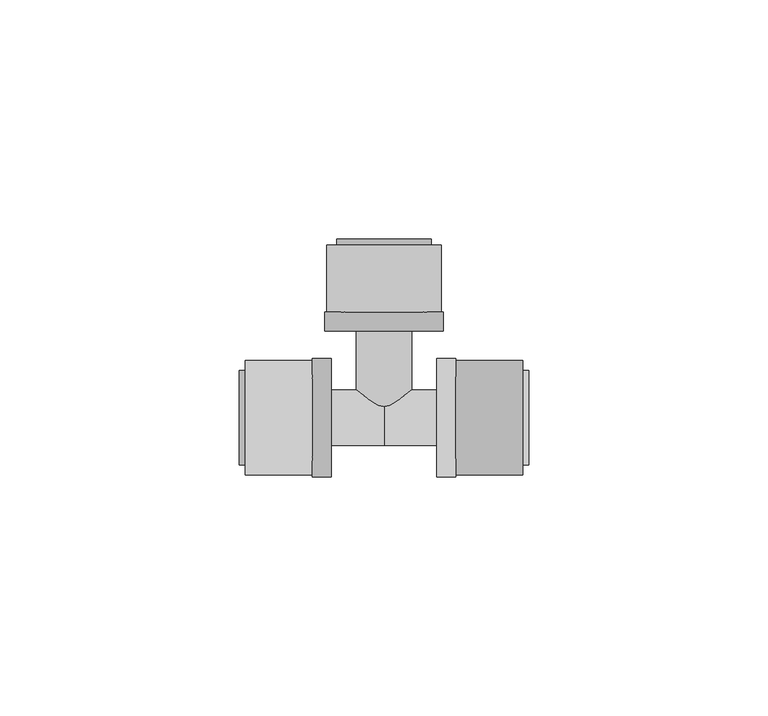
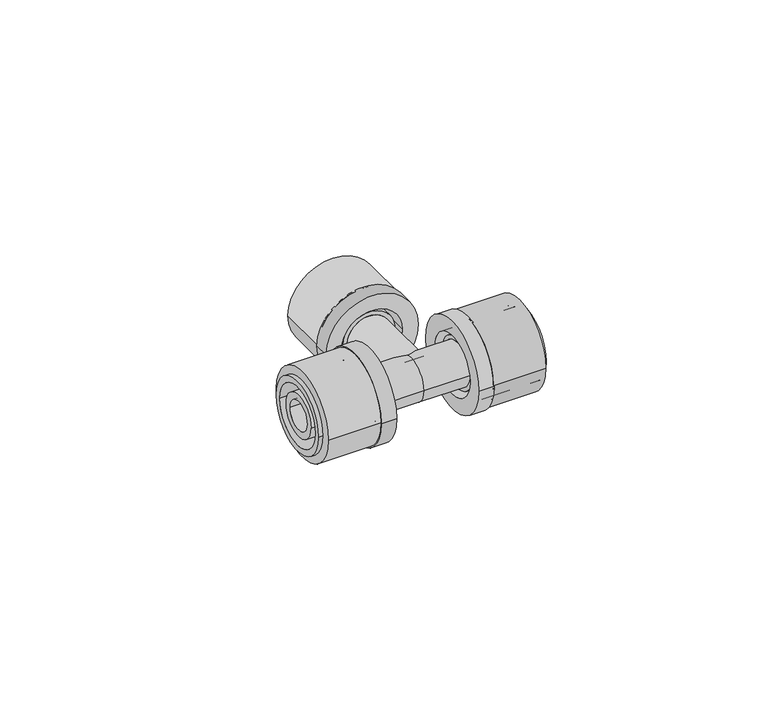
"""IFC4 building model written with IfcOpenShell, lengths in millimetres: pipe fitting geometry, FASTLOC_T-piece_LX : FSL T-Piece LX CZ."""

from ifc_helpers import new_model, si_unit, point, frame, origin, origin_2d, place, context, project, spatial, polyline, circle_curve, trimmed, segment, composite_curve, outline, extrude, source, transform, mapped, element, save
from ifc_brep_helpers import plane_surface, cylinder_surface, revolved_surface, advanced_brep


def pipe_fitting_d1609a9c(model_context):
    return source(origin(), model_context, "Body", "SolidModel", [
        extrude(outline(composite_curve([segment(trimmed(circle_curve(origin_2d(), 12.0), [point((-12.0, 0.0))], [point((12.0, 0.0))], False, "CARTESIAN"), True, "CONTINUOUS"), segment(trimmed(circle_curve(origin_2d(), 12.0), [point((12.0, 0.0))], [point((-12.0, 0.0))], False, "CARTESIAN"), True, "CONTINUOUS")], self_intersect=False), holes=[composite_curve([segment(trimmed(circle_curve(origin_2d(), 8.85), [point((-8.85, 0.0))], [point((8.85, 0.0))], True, "CARTESIAN"), True, "CONTINUOUS"), segment(trimmed(circle_curve(origin_2d(), 8.85), [point((8.85, 0.0))], [point((-8.85, 0.0))], True, "CARTESIAN"), True, "CONTINUOUS")], self_intersect=False)]), frame((15.0, 0.0, 0.0), z_axis=(1.0, 0.0, 0.0), x_axis=(0.0, 1.0, 0.0)), (0.0, 0.0, 1.0), 14.0),
        advanced_brep(
        [(15.0, 12.35, 0.0), (15.0, -12.35, 0.0), (11.0, -12.35, 0.0), (11.0, 12.35, 0.0), (30.3, 9.85, 0.0), (30.3, -9.85, 0.0), (15.0, -9.85, 0.0), (15.0, 9.85, 0.0), (11.0, 8.15, 0.0), (11.0, -8.15, 0.0), (30.3, -8.15, 0.0), (30.3, 8.15, 0.0)],
        [
            (0, 1, circle_curve(frame((15.0, 0.0, 0.0), z_axis=(-1.0, 0.0, 0.0), x_axis=(0.0, -1.0, 0.0)), 12.35)),
            (1, 2),
            (2, 3, circle_curve(frame((11.0, 0.0, 0.0), z_axis=(1.0, 0.0, 0.0), x_axis=(0.0, -1.0, 0.0)), 12.35)),
            (3, 0),
            (4, 5, circle_curve(frame((30.3, 0.0, 0.0), z_axis=(-1.0, 0.0, 0.0), x_axis=(0.0, -1.0, 0.0)), 9.85)),
            (5, 6),
            (6, 7, circle_curve(frame((15.0, 0.0, 0.0), z_axis=(1.0, 0.0, 0.0), x_axis=(0.0, -1.0, 0.0)), 9.85)),
            (7, 4),
            (8, 9, circle_curve(frame((11.0, 0.0, 0.0), z_axis=(-1.0, 0.0, 0.0), x_axis=(0.0, -1.0, 0.0)), 8.15)),
            (9, 10),
            (10, 11, circle_curve(frame((30.3, 0.0, 0.0), z_axis=(1.0, 0.0, 0.0), x_axis=(0.0, -1.0, 0.0)), 8.15)),
            (11, 8),
            (1, 0, circle_curve(frame((15.0, 0.0, 0.0), z_axis=(-1.0, 0.0, 0.0), x_axis=(0.0, 1.0, 0.0)), 12.35)),
            (3, 2, circle_curve(frame((11.0, 0.0, 0.0), z_axis=(1.0, 0.0, 0.0), x_axis=(0.0, 1.0, 0.0)), 12.35)),
            (6, 7, circle_curve(frame((15.0, 0.0, 0.0), z_axis=(-1.0, 0.0, 0.0), x_axis=(0.0, 1.0, 0.0)), 9.85)),
            (5, 4, circle_curve(frame((30.3, 0.0, 0.0), z_axis=(-1.0, 0.0, 0.0), x_axis=(0.0, 1.0, 0.0)), 9.85)),
            (10, 11, circle_curve(frame((30.3, 0.0, 0.0), z_axis=(-1.0, 0.0, 0.0), x_axis=(0.0, 1.0, 0.0)), 8.15)),
            (9, 8, circle_curve(frame((11.0, 0.0, 0.0), z_axis=(-1.0, 0.0, 0.0), x_axis=(0.0, 1.0, 0.0)), 8.15)),
        ],
        [
            cylinder_surface(frame((11.0, 0.0, 0.0), z_axis=(1.0, 0.0, 0.0), x_axis=(0.0, -1.0, 0.0)), 12.35),
            cylinder_surface(frame((11.0, 0.0, 0.0), z_axis=(1.0, 0.0, 0.0), x_axis=(0.0, -1.0, 0.0)), 9.85),
            revolved_surface(polyline([(30.3, -8.15, 0.0), (11.0, -8.15, 0.0)]), (11.0, 0.0, 0.0), (1.0, 0.0, 0.0)),
            cylinder_surface(frame((11.0, 0.0, 0.0), z_axis=(1.0, 0.0, 0.0), x_axis=(0.0, 1.0, 0.0)), 12.35),
            plane_surface(frame((15.0, 0.0, 0.0), z_axis=(1.0, 0.0, 0.0), x_axis=(0.0, 1.0, 0.0))),
            cylinder_surface(frame((11.0, 0.0, 0.0), z_axis=(1.0, 0.0, 0.0), x_axis=(0.0, 1.0, 0.0)), 9.85),
            plane_surface(frame((30.3, 0.0, 0.0), z_axis=(1.0, 0.0, 0.0), x_axis=(0.0, 1.0, 0.0))),
            revolved_surface(polyline([(30.3, 8.15, 0.0), (11.0, 8.15, 0.0)]), (11.0, 0.0, 0.0), (1.0, 0.0, 0.0)),
            plane_surface(frame((11.0, 0.0, 0.0), z_axis=(-1.0, 0.0, 0.0), x_axis=(0.0, 1.0, 0.0))),
        ],
        [
            (0, [[1, 2, 3, 4]]),
            (1, [[5, 6, 7, 8]]),
            (2, [[9, 10, 11, 12]]),
            (3, [[13, -4, 14, -2]]),
            (4, [[-13, -1], [15, -7]]),
            (5, [[16, -8, -15, -6]]),
            (6, [[-16, -5], [17, -11]]),
            (7, [[18, -12, -17, -10]]),
            (8, [[-14, -3], [-18, -9]]),
        ],
    ),
        extrude(outline(composite_curve([segment(trimmed(circle_curve(origin_2d(), 12.0), [point((12.0, 0.0))], [point((-12.0, 0.0))], False, "CARTESIAN"), True, "CONTINUOUS"), segment(trimmed(circle_curve(origin_2d(), 12.0), [point((-12.0, 0.0))], [point((12.0, 0.0))], False, "CARTESIAN"), True, "CONTINUOUS")], self_intersect=False), holes=[composite_curve([segment(trimmed(circle_curve(origin_2d(), 8.85), [point((8.85, 0.0))], [point((-8.85, 0.0))], True, "CARTESIAN"), True, "CONTINUOUS"), segment(trimmed(circle_curve(origin_2d(), 8.85), [point((-8.85, 0.0))], [point((8.85, 0.0))], True, "CARTESIAN"), True, "CONTINUOUS")], self_intersect=False)]), frame((-29.0, 0.0, 0.0), z_axis=(1.0, 0.0, 0.0), x_axis=(0.0, 1.0, 0.0)), (0.0, 0.0, 1.0), 14.0),
        advanced_brep(
        [(-15.0, -12.35, 0.0), (-15.0, 12.35, 0.0), (-11.0, 12.35, 0.0), (-11.0, -12.35, 0.0), (-30.3, -9.85, 0.0), (-30.3, 9.85, 0.0), (-15.0, 9.85, 0.0), (-15.0, -9.85, 0.0), (-11.0, -8.15, 0.0), (-11.0, 8.15, 0.0), (-30.3, 8.15, 0.0), (-30.3, -8.15, 0.0)],
        [
            (0, 1, circle_curve(frame((-15.0, 0.0, 0.0), z_axis=(1.0, 0.0, 0.0), x_axis=(0.0, 1.0, 0.0)), 12.35)),
            (1, 2),
            (2, 3, circle_curve(frame((-11.0, 0.0, 0.0), z_axis=(-1.0, 0.0, 0.0), x_axis=(0.0, 1.0, 0.0)), 12.35)),
            (3, 0),
            (4, 5, circle_curve(frame((-30.3, 0.0, 0.0), z_axis=(1.0, 0.0, 0.0), x_axis=(0.0, 1.0, 0.0)), 9.85)),
            (5, 6),
            (6, 7, circle_curve(frame((-15.0, 0.0, 0.0), z_axis=(-1.0, 0.0, 0.0), x_axis=(0.0, 1.0, 0.0)), 9.85)),
            (7, 4),
            (8, 9, circle_curve(frame((-11.0, 0.0, 0.0), z_axis=(1.0, 0.0, 0.0), x_axis=(0.0, 1.0, 0.0)), 8.15)),
            (9, 10),
            (10, 11, circle_curve(frame((-30.3, 0.0, 0.0), z_axis=(-1.0, 0.0, 0.0), x_axis=(0.0, 1.0, 0.0)), 8.15)),
            (11, 8),
            (1, 0, circle_curve(frame((-15.0, 0.0, 0.0), z_axis=(1.0, 0.0, 0.0), x_axis=(0.0, -1.0, 0.0)), 12.35)),
            (3, 2, circle_curve(frame((-11.0, 0.0, 0.0), z_axis=(-1.0, 0.0, 0.0), x_axis=(0.0, -1.0, 0.0)), 12.35)),
            (6, 7, circle_curve(frame((-15.0, 0.0, 0.0), z_axis=(1.0, 0.0, 0.0), x_axis=(0.0, -1.0, 0.0)), 9.85)),
            (5, 4, circle_curve(frame((-30.3, 0.0, 0.0), z_axis=(1.0, 0.0, 0.0), x_axis=(0.0, -1.0, 0.0)), 9.85)),
            (10, 11, circle_curve(frame((-30.3, 0.0, 0.0), z_axis=(1.0, 0.0, 0.0), x_axis=(0.0, -1.0, 0.0)), 8.15)),
            (9, 8, circle_curve(frame((-11.0, 0.0, 0.0), z_axis=(1.0, 0.0, 0.0), x_axis=(0.0, -1.0, 0.0)), 8.15)),
        ],
        [
            cylinder_surface(frame((-11.0, 0.0, 0.0), z_axis=(-1.0, 0.0, 0.0), x_axis=(0.0, 1.0, 0.0)), 12.35),
            cylinder_surface(frame((-11.0, 0.0, 0.0), z_axis=(-1.0, 0.0, 0.0), x_axis=(0.0, 1.0, 0.0)), 9.85),
            revolved_surface(polyline([(-30.3, 8.15, 0.0), (-11.0, 8.15, 0.0)]), (-11.0, 0.0, 0.0), (-1.0, 0.0, 0.0)),
            cylinder_surface(frame((-11.0, 0.0, 0.0), z_axis=(-1.0, 0.0, 0.0), x_axis=(0.0, -1.0, 0.0)), 12.35),
            plane_surface(frame((-15.0, 0.0, 0.0), z_axis=(-1.0, 0.0, 0.0), x_axis=(0.0, -1.0, 0.0))),
            cylinder_surface(frame((-11.0, 0.0, 0.0), z_axis=(-1.0, 0.0, 0.0), x_axis=(0.0, -1.0, 0.0)), 9.85),
            plane_surface(frame((-30.3, 0.0, 0.0), z_axis=(-1.0, 0.0, 0.0), x_axis=(0.0, -1.0, 0.0))),
            revolved_surface(polyline([(-30.3, -8.15, 0.0), (-11.0, -8.15, 0.0)]), (-11.0, 0.0, 0.0), (-1.0, 0.0, 0.0)),
            plane_surface(frame((-11.0, 0.0, 0.0), z_axis=(1.0, 0.0, 0.0), x_axis=(0.0, -1.0, 0.0))),
        ],
        [
            (0, [[1, 2, 3, 4]]),
            (1, [[5, 6, 7, 8]]),
            (2, [[9, 10, 11, 12]]),
            (3, [[13, -4, 14, -2]]),
            (4, [[-13, -1], [15, -7]]),
            (5, [[16, -8, -15, -6]]),
            (6, [[-16, -5], [17, -11]]),
            (7, [[18, -12, -17, -10]]),
            (8, [[-14, -3], [-18, -9]]),
        ],
    ),
        extrude(outline(composite_curve([segment(trimmed(circle_curve(origin_2d(), 12.0), [point((0.0, 12.0))], [point((0.0, -12.0))], False, "CARTESIAN"), True, "CONTINUOUS"), segment(trimmed(circle_curve(origin_2d(), 12.0), [point((0.0, -12.0))], [point((0.0, 12.0))], False, "CARTESIAN"), True, "CONTINUOUS")], self_intersect=False), holes=[composite_curve([segment(trimmed(circle_curve(origin_2d(), 8.85), [point((0.0, 8.85))], [point((0.0, -8.85))], True, "CARTESIAN"), True, "CONTINUOUS"), segment(trimmed(circle_curve(origin_2d(), 8.85), [point((0.0, -8.85))], [point((0.0, 8.85))], True, "CARTESIAN"), True, "CONTINUOUS")], self_intersect=False)]), frame((0.0, 22.1, 0.0), z_axis=(0.0, 1.0, 0.0), x_axis=(0.0, 0.0, 1.0)), (0.0, 0.0, 1.0), 14.0),
        advanced_brep(
        [(-12.35, 22.1, 0.0), (12.35, 22.1, 0.0), (12.35, 18.1, 0.0), (-12.35, 18.1, 0.0), (-9.85, 37.4, 0.0), (9.85, 37.4, 0.0), (9.85, 22.1, 0.0), (-9.85, 22.1, 0.0), (-8.15, 18.1, 0.0), (8.15, 18.1, 0.0), (8.15, 37.4, 0.0), (-8.15, 37.4, 0.0)],
        [
            (0, 1, circle_curve(frame((0.0, 22.1, 0.0), z_axis=(0.0, -1.0, 0.0), x_axis=(1.0, 0.0, 0.0)), 12.35)),
            (1, 2),
            (2, 3, circle_curve(frame((0.0, 18.1, 0.0), z_axis=(0.0, 1.0, 0.0), x_axis=(1.0, 0.0, 0.0)), 12.35)),
            (3, 0),
            (4, 5, circle_curve(frame((0.0, 37.4, 0.0), z_axis=(0.0, -1.0, 0.0), x_axis=(1.0, 0.0, 0.0)), 9.85)),
            (5, 6),
            (6, 7, circle_curve(frame((0.0, 22.1, 0.0), z_axis=(0.0, 1.0, 0.0), x_axis=(1.0, 0.0, 0.0)), 9.85)),
            (7, 4),
            (8, 9, circle_curve(frame((0.0, 18.1, 0.0), z_axis=(0.0, -1.0, 0.0), x_axis=(1.0, 0.0, 0.0)), 8.15)),
            (9, 10),
            (10, 11, circle_curve(frame((0.0, 37.4, 0.0), z_axis=(0.0, 1.0, 0.0), x_axis=(1.0, 0.0, 0.0)), 8.15)),
            (11, 8),
            (1, 0, circle_curve(frame((0.0, 22.1, 0.0), z_axis=(0.0, -1.0, 0.0), x_axis=(-1.0, 0.0, 0.0)), 12.35)),
            (3, 2, circle_curve(frame((0.0, 18.1, 0.0), z_axis=(0.0, 1.0, 0.0), x_axis=(-1.0, 0.0, 0.0)), 12.35)),
            (6, 7, circle_curve(frame((0.0, 22.1, 0.0), z_axis=(0.0, -1.0, 0.0), x_axis=(-1.0, 0.0, 0.0)), 9.85)),
            (5, 4, circle_curve(frame((0.0, 37.4, 0.0), z_axis=(0.0, -1.0, 0.0), x_axis=(-1.0, 0.0, 0.0)), 9.85)),
            (10, 11, circle_curve(frame((0.0, 37.4, 0.0), z_axis=(0.0, -1.0, 0.0), x_axis=(-1.0, 0.0, 0.0)), 8.15)),
            (9, 8, circle_curve(frame((0.0, 18.1, 0.0), z_axis=(0.0, -1.0, 0.0), x_axis=(-1.0, 0.0, 0.0)), 8.15)),
        ],
        [
            cylinder_surface(frame((0.0, 18.1, 0.0), z_axis=(0.0, 1.0, 0.0), x_axis=(1.0, 0.0, 0.0)), 12.35),
            cylinder_surface(frame((0.0, 18.1, 0.0), z_axis=(0.0, 1.0, 0.0), x_axis=(1.0, 0.0, 0.0)), 9.85),
            revolved_surface(polyline([(8.15, 37.4, 0.0), (8.15, 18.1, 0.0)]), (0.0, 18.1, 0.0), (0.0, 1.0, 0.0)),
            cylinder_surface(frame((0.0, 18.1, 0.0), z_axis=(0.0, 1.0, 0.0), x_axis=(-1.0, 0.0, 0.0)), 12.35),
            plane_surface(frame((0.0, 22.1, 0.0), z_axis=(0.0, 1.0, 0.0), x_axis=(-1.0, 0.0, 0.0))),
            cylinder_surface(frame((0.0, 18.1, 0.0), z_axis=(0.0, 1.0, 0.0), x_axis=(-1.0, 0.0, 0.0)), 9.85),
            plane_surface(frame((0.0, 37.4, 0.0), z_axis=(0.0, 1.0, 0.0), x_axis=(-1.0, 0.0, 0.0))),
            revolved_surface(polyline([(-8.15, 37.4, 0.0), (-8.15, 18.1, 0.0)]), (0.0, 18.1, 0.0), (0.0, 1.0, 0.0)),
            plane_surface(frame((0.0, 18.1, 0.0), z_axis=(0.0, -1.0, 0.0), x_axis=(-1.0, 0.0, 0.0))),
        ],
        [
            (0, [[1, 2, 3, 4]]),
            (1, [[5, 6, 7, 8]]),
            (2, [[9, 10, 11, 12]]),
            (3, [[13, -4, 14, -2]]),
            (4, [[-13, -1], [15, -7]]),
            (5, [[16, -8, -15, -6]]),
            (6, [[-16, -5], [17, -11]]),
            (7, [[18, -12, -17, -10]]),
            (8, [[-14, -3], [-18, -9]]),
        ],
    ),
        advanced_brep(
        [(0.0, 5.8, 0.0), (0.0, -5.8, 0.0), (-12.29, -5.8, 0.0), (-12.29, 5.8, 0.0), (12.29, 5.8, 0.0), (12.29, -5.8, 0.0), (15.0, 6.9, 0.0), (15.0, -6.9, 0.0), (12.29, -6.9, 0.0), (12.29, 6.9, 0.0), (30.0, 5.8, 0.0), (30.0, -5.8, 0.0), (15.0, -5.8, 0.0), (15.0, 5.8, 0.0), (-15.0, 5.8, 0.0), (-15.0, -5.8, 0.0), (-30.0, -5.8, 0.0), (-30.0, 5.8, 0.0), (-12.29, 6.9, 0.0), (-12.29, -6.9, 0.0), (-15.0, -6.9, 0.0), (-15.0, 6.9, 0.0), (30.0, -3.95, 0.0), (30.0, 3.95, 0.0), (-30.0, 3.95, 0.0), (-30.0, -3.95, 0.0), (0.0, 3.95, 0.0), (0.0, -3.95, 0.0)],
        [
            (0, 1, circle_curve(frame((0.0, 0.0, 0.0), z_axis=(-1.0, 0.0, 0.0), x_axis=(0.0, -1.0, 0.0)), 5.8)),
            (1, 2),
            (2, 3, circle_curve(frame((-12.29, 0.0, 0.0), z_axis=(1.0, 0.0, 0.0), x_axis=(0.0, -1.0, 0.0)), 5.8)),
            (3, 0),
            (4, 5, circle_curve(frame((12.29, 0.0, 0.0), z_axis=(-1.0, 0.0, 0.0), x_axis=(0.0, -1.0, 0.0)), 5.8)),
            (5, 1),
            (0, 4),
            (6, 7, circle_curve(frame((15.0, 0.0, 0.0), z_axis=(-1.0, 0.0, 0.0), x_axis=(0.0, -1.0, 0.0)), 6.9)),
            (7, 8),
            (8, 9, circle_curve(frame((12.29, 0.0, 0.0), z_axis=(1.0, 0.0, 0.0), x_axis=(0.0, -1.0, 0.0)), 6.9)),
            (9, 6),
            (10, 11, circle_curve(frame((30.0, 0.0, 0.0), z_axis=(-1.0, 0.0, 0.0), x_axis=(0.0, -1.0, 0.0)), 5.8)),
            (11, 12),
            (12, 13, circle_curve(frame((15.0, 0.0, 0.0), z_axis=(1.0, 0.0, 0.0), x_axis=(0.0, -1.0, 0.0)), 5.8)),
            (13, 10),
            (14, 15, circle_curve(frame((-15.0, 0.0, 0.0), z_axis=(-1.0, 0.0, 0.0), x_axis=(0.0, -1.0, 0.0)), 5.8)),
            (15, 16),
            (16, 17, circle_curve(frame((-30.0, 0.0, 0.0), z_axis=(1.0, 0.0, 0.0), x_axis=(0.0, -1.0, 0.0)), 5.8)),
            (17, 14),
            (18, 19, circle_curve(frame((-12.29, 0.0, 0.0), z_axis=(-1.0, 0.0, 0.0), x_axis=(0.0, -1.0, 0.0)), 6.9)),
            (19, 20),
            (20, 21, circle_curve(frame((-15.0, 0.0, 0.0), z_axis=(1.0, 0.0, 0.0), x_axis=(0.0, -1.0, 0.0)), 6.9)),
            (21, 18),
            (18, 19, circle_curve(frame((-12.29, 0.0, 0.0), z_axis=(1.0, 0.0, 0.0), x_axis=(0.0, 1.0, 0.0)), 6.9)),
            (2, 3, circle_curve(frame((-12.29, 0.0, 0.0), z_axis=(-1.0, 0.0, 0.0), x_axis=(0.0, 1.0, 0.0)), 5.8)),
            (1, 0, circle_curve(frame((0.0, 0.0, 0.0), z_axis=(-1.0, 0.0, 0.0), x_axis=(0.0, 1.0, 0.0)), 5.8)),
            (5, 4, circle_curve(frame((12.29, 0.0, 0.0), z_axis=(-1.0, 0.0, 0.0), x_axis=(0.0, 1.0, 0.0)), 5.8)),
            (8, 9, circle_curve(frame((12.29, 0.0, 0.0), z_axis=(-1.0, 0.0, 0.0), x_axis=(0.0, 1.0, 0.0)), 6.9)),
            (7, 6, circle_curve(frame((15.0, 0.0, 0.0), z_axis=(-1.0, 0.0, 0.0), x_axis=(0.0, 1.0, 0.0)), 6.9)),
            (12, 13, circle_curve(frame((15.0, 0.0, 0.0), z_axis=(-1.0, 0.0, 0.0), x_axis=(0.0, 1.0, 0.0)), 5.8)),
            (11, 10, circle_curve(frame((30.0, 0.0, 0.0), z_axis=(-1.0, 0.0, 0.0), x_axis=(0.0, 1.0, 0.0)), 5.8)),
            (22, 23, circle_curve(frame((30.0, 0.0, 0.0), z_axis=(-1.0, 0.0, 0.0), x_axis=(0.0, 1.0, 0.0)), 3.95)),
            (23, 22, circle_curve(frame((30.0, 0.0, 0.0), z_axis=(-1.0, 0.0, 0.0), x_axis=(0.0, -1.0, 0.0)), 3.95)),
            (16, 17, circle_curve(frame((-30.0, 0.0, 0.0), z_axis=(-1.0, 0.0, 0.0), x_axis=(0.0, 1.0, 0.0)), 5.8)),
            (24, 25, circle_curve(frame((-30.0, 0.0, 0.0), z_axis=(1.0, 0.0, 0.0), x_axis=(0.0, 1.0, 0.0)), 3.95)),
            (25, 24, circle_curve(frame((-30.0, 0.0, 0.0), z_axis=(1.0, 0.0, 0.0), x_axis=(0.0, -1.0, 0.0)), 3.95)),
            (15, 14, circle_curve(frame((-15.0, 0.0, 0.0), z_axis=(-1.0, 0.0, 0.0), x_axis=(0.0, 1.0, 0.0)), 5.8)),
            (20, 21, circle_curve(frame((-15.0, 0.0, 0.0), z_axis=(-1.0, 0.0, 0.0), x_axis=(0.0, 1.0, 0.0)), 6.9)),
            (26, 27, circle_curve(frame((0.0, 0.0, 0.0), z_axis=(-1.0, 0.0, 0.0), x_axis=(0.0, -1.0, 0.0)), 3.95)),
            (27, 22),
            (23, 26),
            (25, 27),
            (26, 24),
            (27, 26, circle_curve(frame((0.0, 0.0, 0.0), z_axis=(-1.0, 0.0, 0.0), x_axis=(0.0, 1.0, 0.0)), 3.95)),
        ],
        [
            cylinder_surface(frame((0.0, 0.0, 0.0), z_axis=(1.0, 0.0, 0.0), x_axis=(0.0, -1.0, 0.0)), 5.8),
            cylinder_surface(frame((0.0, 0.0, 0.0), z_axis=(1.0, 0.0, 0.0), x_axis=(0.0, -1.0, 0.0)), 6.9),
            plane_surface(frame((-12.29, 0.0, 0.0), z_axis=(1.0, 0.0, 0.0), x_axis=(0.0, 1.0, 0.0))),
            cylinder_surface(frame((0.0, 0.0, 0.0), z_axis=(1.0, 0.0, 0.0), x_axis=(0.0, 1.0, 0.0)), 5.8),
            plane_surface(frame((12.29, 0.0, 0.0), z_axis=(-1.0, 0.0, 0.0), x_axis=(0.0, 1.0, 0.0))),
            cylinder_surface(frame((0.0, 0.0, 0.0), z_axis=(1.0, 0.0, 0.0), x_axis=(0.0, 1.0, 0.0)), 6.9),
            plane_surface(frame((15.0, 0.0, 0.0), z_axis=(1.0, 0.0, 0.0), x_axis=(0.0, 1.0, 0.0))),
            plane_surface(frame((30.0, 0.0, 0.0), z_axis=(1.0, 0.0, 0.0), x_axis=(0.0, 1.0, 0.0))),
            plane_surface(frame((-30.0, 0.0, 0.0), z_axis=(-1.0, 0.0, 0.0), x_axis=(0.0, 1.0, 0.0))),
            plane_surface(frame((-15.0, 0.0, 0.0), z_axis=(-1.0, 0.0, 0.0), x_axis=(0.0, 1.0, 0.0))),
            revolved_surface(polyline([(30.0, -3.95, 0.0), (0.0, -3.95, 0.0)]), (0.0, 0.0, 0.0), (1.0, 0.0, 0.0)),
            revolved_surface(polyline([(0.0, -3.95, 0.0), (-30.0, -3.95, 0.0)]), (0.0, 0.0, 0.0), (1.0, 0.0, 0.0)),
            revolved_surface(polyline([(30.0, 3.95, 0.0), (0.0, 3.95, 0.0)]), (0.0, 0.0, 0.0), (1.0, 0.0, 0.0)),
            revolved_surface(polyline([(0.0, 3.95, 0.0), (-30.0, 3.95, 0.0)]), (0.0, 0.0, 0.0), (1.0, 0.0, 0.0)),
        ],
        [
            (0, [[1, 2, 3, 4]]),
            (0, [[5, 6, -1, 7]]),
            (1, [[8, 9, 10, 11]]),
            (0, [[12, 13, 14, 15]]),
            (0, [[16, 17, 18, 19]]),
            (1, [[20, 21, 22, 23]]),
            (2, [[24, -20], [25, -3]]),
            (3, [[26, -4, -25, -2]]),
            (3, [[27, -7, -26, -6]]),
            (4, [[28, -10], [-27, -5]]),
            (5, [[29, -11, -28, -9]]),
            (6, [[-29, -8], [30, -14]]),
            (3, [[31, -15, -30, -13]]),
            (7, [[-31, -12], [32, 33]]),
            (8, [[34, -18], [35, 36]]),
            (3, [[37, -19, -34, -17]]),
            (9, [[38, -22], [-37, -16]]),
            (5, [[-24, -23, -38, -21]]),
            (10, [[39, 40, -33, 41]]),
            (11, [[-36, 42, -39, 43]]),
            (12, [[44, -41, -32, -40]]),
            (13, [[-35, -43, -44, -42]]),
        ],
    ),
        advanced_brep(
        [(3.95, 37.1, 0.0), (-3.95, 37.1, 0.0), (-3.95, 0.0, 0.0), (3.95, 0.0, 0.0), (5.8, 0.0, 0.0), (-5.8, 0.0, 0.0), (-5.8, 19.39, 0.0), (5.8, 19.39, 0.0), (6.9, 19.39, 0.0), (-6.9, 19.39, 0.0), (-6.9, 22.1, 0.0), (6.9, 22.1, 0.0), (5.8, 22.1, 0.0), (-5.8, 22.1, 0.0), (-5.8, 37.1, 0.0), (5.8, 37.1, 0.0)],
        [
            (0, 1, circle_curve(frame((0.0, 37.1, 0.0), z_axis=(0.0, 1.0, 0.0), x_axis=(-1.0, 0.0, 0.0)), 3.95)),
            (1, 2),
            (2, 3, circle_curve(frame((0.0, 0.0, 0.0), z_axis=(0.0, -1.0, 0.0), x_axis=(-1.0, 0.0, 0.0)), 3.95)),
            (3, 0),
            (4, 5, circle_curve(frame((0.0, 0.0, 0.0), z_axis=(0.0, 1.0, 0.0), x_axis=(-1.0, 0.0, 0.0)), 5.8)),
            (5, 6),
            (6, 7, circle_curve(frame((0.0, 19.39, 0.0), z_axis=(0.0, -1.0, 0.0), x_axis=(-1.0, 0.0, 0.0)), 5.8)),
            (7, 4),
            (8, 9, circle_curve(frame((0.0, 19.39, 0.0), z_axis=(0.0, 1.0, 0.0), x_axis=(-1.0, 0.0, 0.0)), 6.9)),
            (9, 10),
            (10, 11, circle_curve(frame((0.0, 22.1, 0.0), z_axis=(0.0, -1.0, 0.0), x_axis=(-1.0, 0.0, 0.0)), 6.9)),
            (11, 8),
            (12, 13, circle_curve(frame((0.0, 22.1, 0.0), z_axis=(0.0, 1.0, 0.0), x_axis=(-1.0, 0.0, 0.0)), 5.8)),
            (13, 14),
            (14, 15, circle_curve(frame((0.0, 37.1, 0.0), z_axis=(0.0, -1.0, 0.0), x_axis=(-1.0, 0.0, 0.0)), 5.8)),
            (15, 12),
            (1, 0, circle_curve(frame((0.0, 37.1, 0.0), z_axis=(0.0, 1.0, 0.0), x_axis=(1.0, 0.0, 0.0)), 3.95)),
            (3, 2, circle_curve(frame((0.0, 0.0, 0.0), z_axis=(0.0, -1.0, 0.0), x_axis=(1.0, 0.0, 0.0)), 3.95)),
            (4, 5, circle_curve(frame((0.0, 0.0, 0.0), z_axis=(0.0, -1.0, 0.0), x_axis=(1.0, 0.0, 0.0)), 5.8)),
            (7, 6, circle_curve(frame((0.0, 19.39, 0.0), z_axis=(0.0, -1.0, 0.0), x_axis=(1.0, 0.0, 0.0)), 5.8)),
            (8, 9, circle_curve(frame((0.0, 19.39, 0.0), z_axis=(0.0, -1.0, 0.0), x_axis=(1.0, 0.0, 0.0)), 6.9)),
            (11, 10, circle_curve(frame((0.0, 22.1, 0.0), z_axis=(0.0, -1.0, 0.0), x_axis=(1.0, 0.0, 0.0)), 6.9)),
            (12, 13, circle_curve(frame((0.0, 22.1, 0.0), z_axis=(0.0, -1.0, 0.0), x_axis=(1.0, 0.0, 0.0)), 5.8)),
            (15, 14, circle_curve(frame((0.0, 37.1, 0.0), z_axis=(0.0, -1.0, 0.0), x_axis=(1.0, 0.0, 0.0)), 5.8)),
        ],
        [
            revolved_surface(polyline([(-3.95, 0.0, 0.0), (-3.95, 37.1, 0.0)]), (0.0, 0.0, 0.0), (0.0, -1.0, 0.0)),
            cylinder_surface(frame((0.0, 0.0, 0.0), z_axis=(0.0, -1.0, 0.0), x_axis=(-1.0, 0.0, 0.0)), 5.8),
            cylinder_surface(frame((0.0, 0.0, 0.0), z_axis=(0.0, -1.0, 0.0), x_axis=(-1.0, 0.0, 0.0)), 6.9),
            revolved_surface(polyline([(3.95, 0.0, 0.0), (3.95, 37.1, 0.0)]), (0.0, 0.0, 0.0), (0.0, -1.0, 0.0)),
            plane_surface(frame((0.0, 0.0, 0.0), z_axis=(0.0, -1.0, 0.0), x_axis=(1.0, 0.0, 0.0))),
            cylinder_surface(frame((0.0, 0.0, 0.0), z_axis=(0.0, -1.0, 0.0), x_axis=(1.0, 0.0, 0.0)), 5.8),
            plane_surface(frame((0.0, 19.39, 0.0), z_axis=(0.0, -1.0, 0.0), x_axis=(1.0, 0.0, 0.0))),
            cylinder_surface(frame((0.0, 0.0, 0.0), z_axis=(0.0, -1.0, 0.0), x_axis=(1.0, 0.0, 0.0)), 6.9),
            plane_surface(frame((0.0, 22.1, 0.0), z_axis=(0.0, 1.0, 0.0), x_axis=(1.0, 0.0, 0.0))),
            plane_surface(frame((0.0, 37.1, 0.0), z_axis=(0.0, 1.0, 0.0), x_axis=(1.0, 0.0, 0.0))),
        ],
        [
            (0, [[1, 2, 3, 4]]),
            (1, [[5, 6, 7, 8]]),
            (2, [[9, 10, 11, 12]]),
            (1, [[13, 14, 15, 16]]),
            (3, [[17, -4, 18, -2]]),
            (4, [[19, -5], [-18, -3]]),
            (5, [[-19, -8, 20, -6]]),
            (6, [[21, -9], [-20, -7]]),
            (7, [[-21, -12, 22, -10]]),
            (8, [[-22, -11], [23, -13]]),
            (5, [[-23, -16, 24, -14]]),
            (9, [[-24, -15], [-17, -1]]),
        ],
    ),
    ])


if __name__ == "__main__":
    model = new_model("IFC4")
    model_context = context("Model", 3, world=origin())
    ifc_project = project(units=[si_unit("LENGTHUNIT", "METRE", prefix="MILLI")], contexts=[model_context])
    site = spatial("IfcSite", under=ifc_project)
    building = spatial("IfcBuilding", under=site)
    placement = place(None, origin())
    pipe_fitting_shape = pipe_fitting_d1609a9c(model_context)
    element("IfcPipeFitting", 1, ObjectType="FASTLOC_T-piece_LX : FSL T-Piece LX CZ", at=placement, inside=building, context=model_context, shape_type="MappedRepresentation", body=[
        mapped(pipe_fitting_shape, transform((0.0, 0.0, 0.0), x_axis=(1.0, 0.0, 0.0), y_axis=(0.0, 1.0, 0.0), z_axis=(0.0, 0.0, 1.0))),
    ])
    save(model, "model.ifc")
